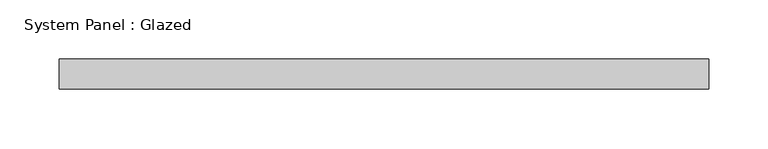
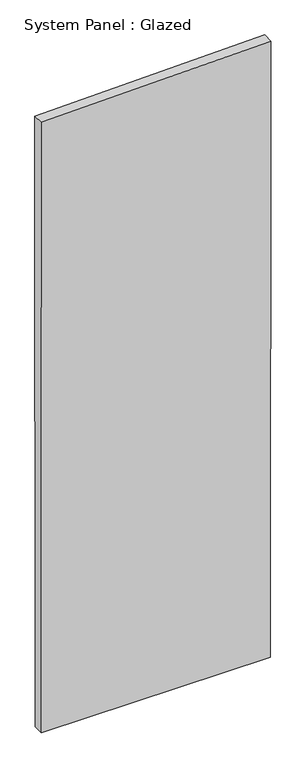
"""IFC4 building model written with IfcOpenShell, lengths in millimetres: plate geometry, System Panel : Glazed."""

from ifc_helpers import new_model, si_unit, frame, origin, place, context, project, spatial, polyline, outline, extrude, source, transform, mapped, element, save


def system_panel_glazed_7af170c0(model_context):
    return source(origin(), model_context, "Body", "SweptSolid", [
        extrude(outline(polyline([(0.0, -272.8621052), (0.0, 272.8625971), (1551.5412121, 273.6453876), (1538.0660091, -273.6453876), (0.0, -272.8621052)])), frame((0.0, -44.45, 0.0), z_axis=(0.0, 1.0, 0.0), x_axis=(0.0, 0.0, 1.0)), (0.0, 0.0, 1.0), 25.4),
    ])


if __name__ == "__main__":
    model = new_model("IFC4")
    model_context = context("Model", 3, world=origin())
    ifc_project = project(units=[si_unit("LENGTHUNIT", "METRE", prefix="MILLI")], contexts=[model_context])
    site = spatial("IfcSite", under=ifc_project)
    building = spatial("IfcBuilding", under=site)
    placement = place(None, origin())
    system_panel_glazed_shape = system_panel_glazed_7af170c0(model_context)
    element("IfcPlate", 1, ObjectType="System Panel : Glazed", at=placement, inside=building, context=model_context, shape_type="MappedRepresentation", body=[
        mapped(system_panel_glazed_shape, transform((0.0, 0.0, 0.0), x_axis=(1.0, 0.0, 0.0), y_axis=(0.0, 1.0, 0.0), z_axis=(0.0, 0.0, 1.0))),
    ])
    save(model, "model.ifc")
